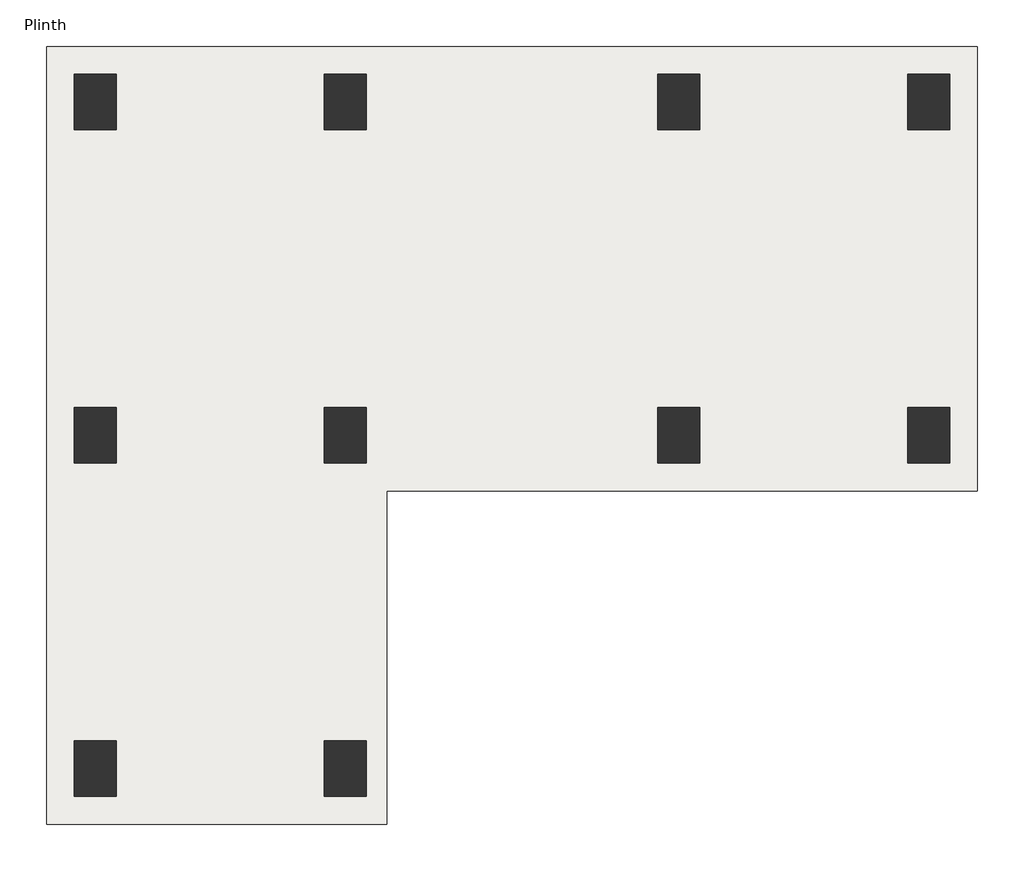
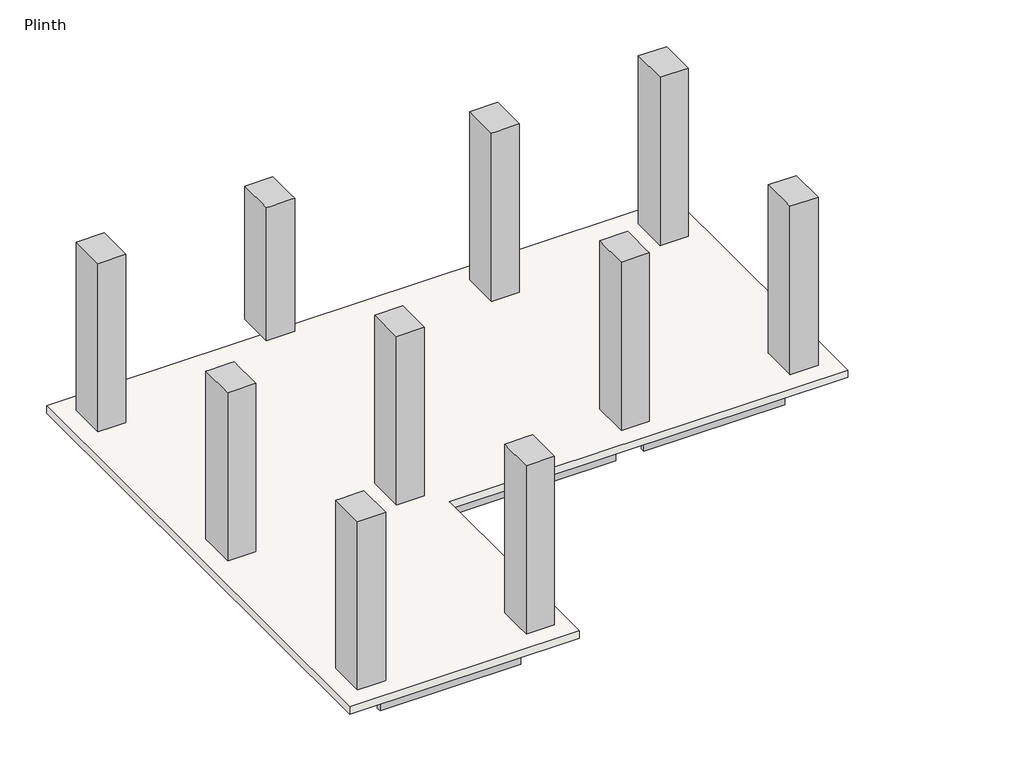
# One storey: 13 beams, 10 columns, 1 slab.
"""IFC4 building model written with IfcOpenShell, lengths in millimetres."""

import ifcopenshell
import ifcopenshell.guid

model = None  # the IFC model being written
_history = None  # IfcOwnerHistory: only IFC2X3 demands one
_inside = {}  # id of a spatial element -> (the spatial element, [elements in it])
_under = {}  # id of a project, library or spatial element -> (it, [spatial elements below it])
_declared = {}  # id of a project -> (the project, [libraries it declares])
_typed = {}  # id of a type object -> (the type object, [elements of that type])
_made_of = {}  # id of a material, layer set ... -> (it, [elements and type objects made of it])


def new_model(schema):
    """Start an empty IFC model of exactly this schema.

    Asked for "IFC4X3", IfcOpenShell would pick the latest addendum, in which some entities
    have other attributes; the version numbers below select the first issue.
    IFC2X3 requires an IfcOwnerHistory on every rooted entity: one is made here for all.
    """
    global model, _history
    if schema == "IFC4X3":
        model = ifcopenshell.file(schema_version=(4, 3, 0, 0))
    else:
        model = ifcopenshell.file(schema=schema)
    _inside.clear()
    _under.clear()
    _declared.clear()
    _typed.clear()
    _made_of.clear()
    _history = None
    if model.schema == "IFC2X3":
        org = make("IfcOrganization", Name="unknown")
        user = make(
            "IfcPersonAndOrganization",
            ThePerson=make("IfcPerson", FamilyName="unknown"),
            TheOrganization=org,
        )
        app = make(
            "IfcApplication",
            ApplicationDeveloper=org,
            Version="unknown",
            ApplicationFullName="unknown",
            ApplicationIdentifier="unknown",
        )
        _history = make(
            "IfcOwnerHistory",
            OwningUser=user,
            OwningApplication=app,
            ChangeAction="ADDED",
            CreationDate=0,
        )
    return model


def make(cls, **values):
    """One entity of the class cls with the attributes given. An attribute that is None is left unset."""
    return model.create_entity(
        cls, **{name: value for name, value in values.items() if value is not None}
    )


def rooted(cls, **values):
    """An entity with a GlobalId (a new one), such as an element, a storey or a relation."""
    return make(cls, GlobalId=ifcopenshell.guid.new(), OwnerHistory=_history, **values)


def si_unit(unit_type, name, prefix=None):
    """IfcSIUnit, for example si_unit("LENGTHUNIT", "METRE", prefix="MILLI")."""
    return make("IfcSIUnit", UnitType=unit_type, Prefix=prefix, Name=name)


def assignment(units):
    """IfcUnitAssignment: the units of a project."""
    return None if units is None else make("IfcUnitAssignment", Units=units)


def point(xyz):
    """IfcCartesianPoint."""
    return None if xyz is None else make("IfcCartesianPoint", Coordinates=xyz)


def direction(xyz):
    """IfcDirection."""
    return None if xyz is None else make("IfcDirection", DirectionRatios=xyz)


def frame(location, z_axis=None, x_axis=None):
    """IfcAxis2Placement3D, a coordinate frame: its origin and axes. An axis left out is left unset."""
    return make(
        "IfcAxis2Placement3D",
        Location=point(location),
        Axis=direction(z_axis),
        RefDirection=direction(x_axis),
    )


def origin():
    """The frame at (0, 0, 0) with its axes left unset."""
    return frame((0.0, 0.0, 0.0))


def place(relative_to, where):
    """IfcLocalPlacement: puts the frame where relative to a parent placement (None: the world)."""
    return make(
        "IfcLocalPlacement", PlacementRelTo=relative_to, RelativePlacement=where
    )


def context(
    kind, dimensions, precision=None, world=None, true_north=None, identifier=None
):
    """IfcGeometricRepresentationContext, for example the 3D "Model" context."""
    return make(
        "IfcGeometricRepresentationContext",
        ContextIdentifier=identifier,
        ContextType=kind,
        CoordinateSpaceDimension=dimensions,
        Precision=precision,
        WorldCoordinateSystem=world,
        TrueNorth=true_north,
    )


def project(units=None, contexts=None):
    """IfcProject with its units and contexts."""
    return rooted(
        "IfcProject",
        Name="project",
        RepresentationContexts=contexts,
        UnitsInContext=assignment(units),
    )


def spatial(cls, under=None, at=None, **own):
    """A site, building, storey or space (cls), placed at a placement, below another one or the project."""
    s = rooted(cls, ObjectPlacement=at, **own)
    if under is not None:
        _under.setdefault(under.id(), (under, []))[1].append(s)
    return s


def polyline(points):
    """IfcPolyline through the points."""
    return make("IfcPolyline", Points=[point(p) for p in points])


def outline(outer, holes=None, kind="AREA"):
    """IfcArbitraryClosedProfileDef: a profile drawn as a closed curve; with holes, ...WithVoids."""
    if holes is None:
        return make("IfcArbitraryClosedProfileDef", ProfileType=kind, OuterCurve=outer)
    return make(
        "IfcArbitraryProfileDefWithVoids",
        ProfileType=kind,
        OuterCurve=outer,
        InnerCurves=holes,
    )


def extrude(swept, where, along, depth):
    """IfcExtrudedAreaSolid: the profile swept, set in the frame where, extruded along a direction by depth."""
    return make(
        "IfcExtrudedAreaSolid",
        SweptArea=swept,
        Position=where,
        ExtrudedDirection=direction(along),
        Depth=depth,
    )


def faces_of(points, faces, orient=None, outer=None):
    """IfcFace entities. A face is a list of loops; a loop is a list of indices into points, from 0.

    orient and outer hold one flag for each loop. By default every Orientation is true, the
    first loop of a face is its IfcFaceOuterBound and the others are IfcFaceBound.
    """
    made = []
    for i, loops in enumerate(faces):
        bounds = []
        for j, loop in enumerate(loops):
            is_outer = j == 0 if outer is None else outer[i][j]
            bounds.append(
                make(
                    "IfcFaceOuterBound" if is_outer else "IfcFaceBound",
                    Bound=make("IfcPolyLoop", Polygon=[points[k] for k in loop]),
                    Orientation=True if orient is None else orient[i][j],
                )
            )
        made.append(make("IfcFace", Bounds=bounds))
    return made


def faceted_brep(points, faces, orient=None, outer=None, voids=None):
    """IfcFacetedBrep: a solid bounded by flat faces; with voids (closed shells), ...WithVoids."""
    shared = [point(p) for p in points]
    hull = make("IfcClosedShell", CfsFaces=faces_of(shared, faces, orient, outer))
    if voids is None:
        return make("IfcFacetedBrep", Outer=hull)
    return make(
        "IfcFacetedBrepWithVoids",
        Outer=hull,
        Voids=[
            make(cls, CfsFaces=faces_of(shared, fs, o, b)) for cls, fs, o, b in voids
        ],
    )


def shape(context_of_items, identifier, shape_type, items):
    """IfcShapeRepresentation: the items that make up one representation, for example the "Body"."""
    return make(
        "IfcShapeRepresentation",
        ContextOfItems=context_of_items,
        RepresentationIdentifier=identifier,
        RepresentationType=shape_type,
        Items=items,
    )


def made_of(thing, what):
    """Note that an element or type object is made of a material, layer set ...; save() writes the relation."""
    if what is not None:
        _made_of.setdefault(what.id(), (what, []))[1].append(thing)
    return thing


def element(
    cls,
    number,
    at=None,
    inside=None,
    cuts=None,
    type_object=None,
    material=None,
    context=None,
    identifier="Body",
    shape_type=None,
    held_by="IfcProductDefinitionShape",
    body=None,
    shapes=None,
    **own,
):
    """One element of the class cls, such as IfcWall. Its Tag is "e" and its number.

    at: its placement. inside: the storey or other place that contains it. cuts: it is an
    opening in that element (IfcRelVoidsElement). A single representation is given by context,
    identifier, shape_type and body (its items); several are given by shapes. held_by: the class
    of the entity that holds the representations. save() writes the other relations.
    """
    e = rooted(cls, Tag="e%d" % number, ObjectPlacement=at, **own)
    if body is not None:
        shapes = [shape(context, identifier, shape_type, body)]
    if shapes is not None:
        e.Representation = make(held_by, Representations=shapes)
    if inside is not None:
        _inside.setdefault(inside.id(), (inside, []))[1].append(e)
    if cuts is not None:
        rooted(
            "IfcRelVoidsElement", RelatingBuildingElement=cuts, RelatedOpeningElement=e
        )
    if type_object is not None:
        _typed.setdefault(type_object.id(), (type_object, []))[1].append(e)
    return made_of(e, material)


def aggregate(whole, parts):
    """IfcRelAggregates: a whole, such as a stair, and the parts it consists of."""
    return rooted("IfcRelAggregates", RelatingObject=whole, RelatedObjects=parts)


def save(model, path):
    """Write the relations noted so far, then the file.

    IfcRelAggregates (storeys below a building ...), IfcRelContainedInSpatialStructure (elements
    in a storey), IfcRelDefinesByType, IfcRelAssociatesMaterial and IfcRelDeclares: one each for
    every whole, place, type object, material and project.
    """
    for whole, parts in _under.values():
        aggregate(whole, parts)
    for where, things in _inside.values():
        rooted(
            "IfcRelContainedInSpatialStructure",
            RelatedElements=things,
            RelatingStructure=where,
        )
    for kind, things in _typed.values():
        rooted("IfcRelDefinesByType", RelatedObjects=things, RelatingType=kind)
    for what, things in _made_of.values():
        rooted("IfcRelAssociatesMaterial", RelatedObjects=things, RelatingMaterial=what)
    for by, libraries in _declared.values():
        rooted("IfcRelDeclares", RelatingContext=by, RelatedDefinitions=libraries)
    model.write(path)


model = new_model("IFC4")

# Units and contexts
model_context = context("Model", 3, world=origin())
ifc_project = project(units=[si_unit("LENGTHUNIT", "METRE", prefix="MILLI")], contexts=[model_context])

# Site, building, storey
site = spatial("IfcSite", under=ifc_project)
building = spatial("IfcBuilding", under=site)
storey = spatial("IfcBuildingStorey", under=building, Name="Plinth", Elevation=3048.0)

# Beams
placement = place(None, origin())
element("IfcBeam", 1, ObjectType="Concrete-Rectangular Beam : 12 x 24", at=placement, inside=storey, context=model_context, shape_type="SweptSolid", body=[
    extrude(outline(polyline([(-20798.018666, 15705.8753347), (-23084.018666, 15705.8753347), (-23084.018666, 15782.0753347), (-20798.018666, 15782.0753347), (-20798.018666, 15705.8753347)])), frame((0.0, 0.0, 2438.4), z_axis=(0.0, 0.0, 1.0), x_axis=(1.0, 0.0, 0.0)), (0.0, 0.0, 1.0), 482.6),
    extrude(outline(polyline([(-23084.018666, 16010.6753347), (-20798.018666, 16010.6753347), (-20798.018666, 15934.4753347), (-23084.018666, 15934.4753347), (-23084.018666, 16010.6753347)])), frame((0.0, 0.0, 2438.4), z_axis=(0.0, 0.0, 1.0), x_axis=(1.0, 0.0, 0.0)), (0.0, 0.0, 1.0), 482.6),
])
element("IfcBeam", 2, ObjectType="Concrete-Rectangular Beam : 12 x 24", at=placement, inside=storey, context=model_context, shape_type="SweptSolid", body=[
    extrude(outline(polyline([(-17140.418666, 15705.8753347), (-20340.818666, 15705.8753347), (-20340.818666, 15782.0753347), (-17140.418666, 15782.0753347), (-17140.418666, 15705.8753347)])), frame((0.0, 0.0, 2438.4), z_axis=(0.0, 0.0, 1.0), x_axis=(1.0, 0.0, 0.0)), (0.0, 0.0, 1.0), 482.6),
    extrude(outline(polyline([(-20340.818666, 16010.6753347), (-17140.418666, 16010.6753347), (-17140.418666, 15934.4753347), (-20340.818666, 15934.4753347), (-20340.818666, 16010.6753347)])), frame((0.0, 0.0, 2438.4), z_axis=(0.0, 0.0, 1.0), x_axis=(1.0, 0.0, 0.0)), (0.0, 0.0, 1.0), 482.6),
])
element("IfcBeam", 3, ObjectType="Concrete-Rectangular Beam : 12 x 24", at=placement, inside=storey, context=model_context, shape_type="SweptSolid", body=[
    extrude(outline(polyline([(-14397.218666, 15705.8753347), (-16683.218666, 15705.8753347), (-16683.218666, 15782.0753347), (-14397.218666, 15782.0753347), (-14397.218666, 15705.8753347)])), frame((0.0, 0.0, 2438.4), z_axis=(0.0, 0.0, 1.0), x_axis=(1.0, 0.0, 0.0)), (0.0, 0.0, 1.0), 482.6),
    extrude(outline(polyline([(-16683.218666, 16010.6753347), (-14397.218666, 16010.6753347), (-14397.218666, 15934.4753347), (-16683.218666, 15934.4753347), (-16683.218666, 16010.6753347)])), frame((0.0, 0.0, 2438.4), z_axis=(0.0, 0.0, 1.0), x_axis=(1.0, 0.0, 0.0)), (0.0, 0.0, 1.0), 482.6),
])
element("IfcBeam", 4, ObjectType="Concrete-Rectangular Beam : 12 x 24", at=placement, inside=storey, context=model_context, shape_type="SweptSolid", body=[
    extrude(outline(polyline([(-14321.018666, 12505.4753347), (-14321.018666, 15553.4753347), (-14244.818666, 15553.4753347), (-14244.818666, 12505.4753347), (-14321.018666, 12505.4753347)])), frame((0.0, 0.0, 2438.4), z_axis=(0.0, 0.0, 1.0), x_axis=(1.0, 0.0, 0.0)), (0.0, 0.0, 1.0), 482.6),
    extrude(outline(polyline([(-14016.218666, 15553.4753347), (-14016.218666, 12505.4753347), (-14092.418666, 12505.4753347), (-14092.418666, 15553.4753347), (-14016.218666, 15553.4753347)])), frame((0.0, 0.0, 2438.4), z_axis=(0.0, 0.0, 1.0), x_axis=(1.0, 0.0, 0.0)), (0.0, 0.0, 1.0), 482.6),
])
element("IfcBeam", 5, ObjectType="Concrete-Rectangular Beam : 12 x 24", at=placement, inside=storey, context=model_context, shape_type="SweptSolid", body=[
    extrude(outline(polyline([(-16683.218666, 12353.0753347), (-14397.218666, 12353.0753347), (-14397.218666, 12276.8753347), (-16683.218666, 12276.8753347), (-16683.218666, 12353.0753347)])), frame((0.0, 0.0, 2438.4), z_axis=(0.0, 0.0, 1.0), x_axis=(1.0, 0.0, 0.0)), (0.0, 0.0, 1.0), 482.6),
    extrude(outline(polyline([(-14397.218666, 12048.2753347), (-16683.218666, 12048.2753347), (-16683.218666, 12124.4753347), (-14397.218666, 12124.4753347), (-14397.218666, 12048.2753347)])), frame((0.0, 0.0, 2438.4), z_axis=(0.0, 0.0, 1.0), x_axis=(1.0, 0.0, 0.0)), (0.0, 0.0, 1.0), 482.6),
])
element("IfcBeam", 6, ObjectType="Concrete-Rectangular Beam : 12 x 24", at=placement, inside=storey, context=model_context, shape_type="SweptSolid", body=[
    extrude(outline(polyline([(-20340.818666, 12353.0753347), (-17140.418666, 12353.0753347), (-17140.418666, 12276.8753347), (-20340.818666, 12276.8753347), (-20340.818666, 12353.0753347)])), frame((0.0, 0.0, 2438.4), z_axis=(0.0, 0.0, 1.0), x_axis=(1.0, 0.0, 0.0)), (0.0, 0.0, 1.0), 482.6),
    extrude(outline(polyline([(-17140.418666, 12048.2753347), (-20340.818666, 12048.2753347), (-20340.818666, 12124.4753347), (-17140.418666, 12124.4753347), (-17140.418666, 12048.2753347)])), frame((0.0, 0.0, 2438.4), z_axis=(0.0, 0.0, 1.0), x_axis=(1.0, 0.0, 0.0)), (0.0, 0.0, 1.0), 482.6),
])
element("IfcBeam", 7, ObjectType="Concrete-Rectangular Beam : 12 x 24", at=placement, inside=storey, context=model_context, shape_type="SweptSolid", body=[
    extrude(outline(polyline([(-20721.818666, 8847.8753347), (-20721.818666, 11895.8753347), (-20645.618666, 11895.8753347), (-20645.618666, 8847.8753347), (-20721.818666, 8847.8753347)])), frame((0.0, 0.0, 2438.4), z_axis=(0.0, 0.0, 1.0), x_axis=(1.0, 0.0, 0.0)), (0.0, 0.0, 1.0), 482.6),
    extrude(outline(polyline([(-20417.018666, 11895.8753347), (-20417.018666, 8847.8753347), (-20493.218666, 8847.8753347), (-20493.218666, 11895.8753347), (-20417.018666, 11895.8753347)])), frame((0.0, 0.0, 2438.4), z_axis=(0.0, 0.0, 1.0), x_axis=(1.0, 0.0, 0.0)), (0.0, 0.0, 1.0), 482.6),
])
element("IfcBeam", 8, ObjectType="Concrete-Rectangular Beam : 12 x 24", at=placement, inside=storey, context=model_context, shape_type="SweptSolid", body=[
    extrude(outline(polyline([(-23084.018666, 8695.4753347), (-20798.018666, 8695.4753347), (-20798.018666, 8619.2753347), (-23084.018666, 8619.2753347), (-23084.018666, 8695.4753347)])), frame((0.0, 0.0, 2438.4), z_axis=(0.0, 0.0, 1.0), x_axis=(1.0, 0.0, 0.0)), (0.0, 0.0, 1.0), 482.6),
    extrude(outline(polyline([(-20798.018666, 8390.6753347), (-23084.018666, 8390.6753347), (-23084.018666, 8466.8753347), (-20798.018666, 8466.8753347), (-20798.018666, 8390.6753347)])), frame((0.0, 0.0, 2438.4), z_axis=(0.0, 0.0, 1.0), x_axis=(1.0, 0.0, 0.0)), (0.0, 0.0, 1.0), 482.6),
])
element("IfcBeam", 9, ObjectType="Concrete-Rectangular Beam : 12 x 24", at=placement, inside=storey, context=model_context, shape_type="SweptSolid", body=[
    extrude(outline(polyline([(-23160.218666, 11895.8753347), (-23160.218666, 8847.8753347), (-23236.418666, 8847.8753347), (-23236.418666, 11895.8753347), (-23160.218666, 11895.8753347)])), frame((0.0, 0.0, 2438.4), z_axis=(0.0, 0.0, 1.0), x_axis=(1.0, 0.0, 0.0)), (0.0, 0.0, 1.0), 482.6),
    extrude(outline(polyline([(-23465.018666, 8847.8753347), (-23465.018666, 11895.8753347), (-23388.818666, 11895.8753347), (-23388.818666, 8847.8753347), (-23465.018666, 8847.8753347)])), frame((0.0, 0.0, 2438.4), z_axis=(0.0, 0.0, 1.0), x_axis=(1.0, 0.0, 0.0)), (0.0, 0.0, 1.0), 482.6),
])
element("IfcBeam", 10, ObjectType="Concrete-Rectangular Beam : 12 x 24", at=placement, inside=storey, context=model_context, shape_type="SweptSolid", body=[
    extrude(outline(polyline([(-23160.218666, 15553.4753347), (-23160.218666, 12505.4753347), (-23236.418666, 12505.4753347), (-23236.418666, 15553.4753347), (-23160.218666, 15553.4753347)])), frame((0.0, 0.0, 2438.4), z_axis=(0.0, 0.0, 1.0), x_axis=(1.0, 0.0, 0.0)), (0.0, 0.0, 1.0), 482.6),
    extrude(outline(polyline([(-23465.018666, 12505.4753347), (-23465.018666, 15553.4753347), (-23388.818666, 15553.4753347), (-23388.818666, 12505.4753347), (-23465.018666, 12505.4753347)])), frame((0.0, 0.0, 2438.4), z_axis=(0.0, 0.0, 1.0), x_axis=(1.0, 0.0, 0.0)), (0.0, 0.0, 1.0), 482.6),
])
element("IfcBeam", 11, ObjectType="Concrete-Rectangular Beam : 12 x 24", at=placement, inside=storey, context=model_context, shape_type="SweptSolid", body=[
    extrude(outline(polyline([(-16759.418666, 12505.4753347), (-17064.218666, 12505.4753347), (-17064.218666, 15553.4753347), (-16759.418666, 15553.4753347), (-16759.418666, 12505.4753347)])), frame((0.0, 0.0, 2438.4), z_axis=(0.0, 0.0, 1.0), x_axis=(1.0, 0.0, 0.0)), (0.0, 0.0, 1.0), 482.6),
])
element("IfcBeam", 12, ObjectType="Concrete-Rectangular Beam : 12 x 24", at=placement, inside=storey, context=model_context, shape_type="SweptSolid", body=[
    extrude(outline(polyline([(-20721.818666, 15553.4753347), (-20417.018666, 15553.4753347), (-20417.018666, 12505.4753347), (-20721.818666, 12505.4753347), (-20721.818666, 15553.4753347)])), frame((0.0, 0.0, 2438.4), z_axis=(0.0, 0.0, 1.0), x_axis=(1.0, 0.0, 0.0)), (0.0, 0.0, 1.0), 482.6),
])
element("IfcBeam", 13, ObjectType="Concrete-Rectangular Beam : 12 x 24", at=placement, inside=storey, context=model_context, shape_type="SweptSolid", body=[
    extrude(outline(polyline([(-23084.018666, 12048.2753347), (-23084.018666, 12353.0753347), (-20798.018666, 12353.0753347), (-20798.018666, 12048.2753347), (-23084.018666, 12048.2753347)])), frame((0.0, 0.0, 2438.4), z_axis=(0.0, 0.0, 1.0), x_axis=(1.0, 0.0, 0.0)), (0.0, 0.0, 1.0), 482.6),
])

# Columns
element("IfcColumn", 14, ObjectType="Concrete-Rectangular-Column : 18 x 24", at=placement, inside=storey, context=model_context, shape_type="Brep", body=[
    faceted_brep([(-23084.018666, 16163.0753347, 3048.0), (-23084.018666, 15553.4753347, 3048.0), (-23541.218666, 15553.4753347, 3048.0), (-23541.218666, 16163.0753347, 3048.0), (-23084.018666, 16163.0753347, 5943.6), (-23084.018666, 16010.6753347, 5943.6), (-23084.018666, 15705.8753347, 5943.6), (-23084.018666, 15553.4753347, 5943.6), (-23160.218666, 15553.4753347, 5943.6), (-23465.018666, 15553.4753347, 5943.6), (-23541.218666, 15553.4753347, 5943.6), (-23541.218666, 16163.0753347, 5943.6)], [[[0, 1, 2, 3]], [[1, 0, 4, 5, 6, 7]], [[2, 1, 7, 8, 9, 10]], [[3, 2, 10, 11]], [[0, 3, 11, 4]], [[7, 6, 5, 4, 11, 10, 9, 8]]]),
])
element("IfcColumn", 15, ObjectType="Concrete-Rectangular-Column : 18 x 24", at=placement, inside=storey, context=model_context, shape_type="Brep", body=[
    faceted_brep([(-20340.818666, 16163.0753347, 3657.6), (-20340.818666, 15553.4753347, 3657.6), (-20798.018666, 15553.4753347, 3657.6), (-20798.018666, 16163.0753347, 3657.6), (-20340.818666, 16163.0753347, 5943.6), (-20340.818666, 16010.6753347, 5943.6), (-20340.818666, 15705.8753347, 5943.6), (-20340.818666, 15553.4753347, 5943.6), (-20417.018666, 15553.4753347, 5943.6), (-20721.818666, 15553.4753347, 5943.6), (-20798.018666, 15553.4753347, 5943.6), (-20798.018666, 15705.8753347, 5943.6), (-20798.018666, 16010.6753347, 5943.6), (-20798.018666, 16163.0753347, 5943.6)], [[[0, 1, 2, 3]], [[1, 0, 4, 5, 6, 7]], [[2, 1, 7, 8, 9, 10]], [[3, 2, 10, 11, 12, 13]], [[0, 3, 13, 4]], [[7, 6, 5, 4, 13, 12, 11, 10, 9, 8]]]),
])
element("IfcColumn", 16, ObjectType="Concrete-Rectangular-Column : 18 x 24", at=placement, inside=storey, context=model_context, shape_type="Brep", body=[
    faceted_brep([(-16683.218666, 16163.0753347, 3048.0), (-16683.218666, 15553.4753347, 3048.0), (-17140.418666, 15553.4753347, 3048.0), (-17140.418666, 16163.0753347, 3048.0), (-16683.218666, 16163.0753347, 5943.6), (-16683.218666, 16010.6753347, 5943.6), (-16683.218666, 15705.8753347, 5943.6), (-16683.218666, 15553.4753347, 5943.6), (-16759.418666, 15553.4753347, 5943.6), (-17064.218666, 15553.4753347, 5943.6), (-17140.418666, 15553.4753347, 5943.6), (-17140.418666, 15705.8753347, 5943.6), (-17140.418666, 16010.6753347, 5943.6), (-17140.418666, 16163.0753347, 5943.6)], [[[0, 1, 2, 3]], [[1, 0, 4, 5, 6, 7]], [[2, 1, 7, 8, 9, 10]], [[3, 2, 10, 11, 12, 13]], [[0, 3, 13, 4]], [[7, 6, 5, 4, 13, 12, 11, 10, 9, 8]]]),
])
element("IfcColumn", 17, ObjectType="Concrete-Rectangular-Column : 18 x 24", at=placement, inside=storey, context=model_context, shape_type="Brep", body=[
    faceted_brep([(-13940.018666, 16163.0753347, 3048.0), (-13940.018666, 15553.4753347, 3048.0), (-14397.218666, 15553.4753347, 3048.0), (-14397.218666, 16163.0753347, 3048.0), (-13940.018666, 16163.0753347, 5943.6), (-13940.018666, 15553.4753347, 5943.6), (-14016.218666, 15553.4753347, 5943.6), (-14321.018666, 15553.4753347, 5943.6), (-14397.218666, 15553.4753347, 5943.6), (-14397.218666, 15705.8753347, 5943.6), (-14397.218666, 16010.6753347, 5943.6), (-14397.218666, 16163.0753347, 5943.6)], [[[0, 1, 2, 3]], [[1, 0, 4, 5]], [[2, 1, 5, 6, 7, 8]], [[3, 2, 8, 9, 10, 11]], [[0, 3, 11, 4]], [[5, 4, 11, 10, 9, 8, 7, 6]]]),
])
element("IfcColumn", 18, ObjectType="Concrete-Rectangular-Column : 18 x 24", at=placement, inside=storey, context=model_context, shape_type="Brep", body=[
    faceted_brep([(-23084.018666, 12505.4753347, 3048.0), (-23084.018666, 11895.8753347, 3048.0), (-23541.218666, 11895.8753347, 3048.0), (-23541.218666, 12505.4753347, 3048.0), (-23084.018666, 12505.4753347, 5943.6), (-23084.018666, 12353.0753347, 5943.6), (-23084.018666, 12048.2753347, 5943.6), (-23084.018666, 11895.8753347, 5943.6), (-23160.218666, 11895.8753347, 5943.6), (-23465.018666, 11895.8753347, 5943.6), (-23541.218666, 11895.8753347, 5943.6), (-23541.218666, 12505.4753347, 5943.6), (-23465.018666, 12505.4753347, 5943.6), (-23160.218666, 12505.4753347, 5943.6)], [[[0, 1, 2, 3]], [[1, 0, 4, 5, 6, 7]], [[2, 1, 7, 8, 9, 10]], [[3, 2, 10, 11]], [[0, 3, 11, 12, 13, 4]], [[7, 6, 5, 4, 13, 12, 11, 10, 9, 8]]]),
])
element("IfcColumn", 19, ObjectType="Concrete-Rectangular-Column : 18 x 24", at=placement, inside=storey, context=model_context, shape_type="Brep", body=[
    faceted_brep([(-20340.818666, 12505.4753347, 3048.0), (-20340.818666, 11895.8753347, 3048.0), (-20798.018666, 11895.8753347, 3048.0), (-20798.018666, 12505.4753347, 3048.0), (-20340.818666, 12505.4753347, 5943.6), (-20340.818666, 12353.0753347, 5943.6), (-20340.818666, 12048.2753347, 5943.6), (-20340.818666, 11895.8753347, 5943.6), (-20417.018666, 11895.8753347, 5943.6), (-20721.818666, 11895.8753347, 5943.6), (-20798.018666, 11895.8753347, 5943.6), (-20798.018666, 12048.2753347, 5943.6), (-20798.018666, 12353.0753347, 5943.6), (-20798.018666, 12505.4753347, 5943.6), (-20721.818666, 12505.4753347, 5943.6), (-20417.018666, 12505.4753347, 5943.6)], [[[0, 1, 2, 3]], [[1, 0, 4, 5, 6, 7]], [[2, 1, 7, 8, 9, 10]], [[3, 2, 10, 11, 12, 13]], [[0, 3, 13, 14, 15, 4]], [[7, 6, 5, 4, 15, 14, 13, 12, 11, 10, 9, 8]]]),
])
element("IfcColumn", 20, ObjectType="Concrete-Rectangular-Column : 18 x 24", at=placement, inside=storey, context=model_context, shape_type="Brep", body=[
    faceted_brep([(-16683.218666, 12505.4753347, 3048.0), (-16683.218666, 11895.8753347, 3048.0), (-17140.418666, 11895.8753347, 3048.0), (-17140.418666, 12505.4753347, 3048.0), (-16683.218666, 12505.4753347, 5943.6), (-16683.218666, 12353.0753347, 5943.6), (-16683.218666, 12048.2753347, 5943.6), (-16683.218666, 11895.8753347, 5943.6), (-17140.418666, 11895.8753347, 5943.6), (-17140.418666, 12048.2753347, 5943.6), (-17140.418666, 12353.0753347, 5943.6), (-17140.418666, 12505.4753347, 5943.6), (-17064.218666, 12505.4753347, 5943.6), (-16759.418666, 12505.4753347, 5943.6)], [[[0, 1, 2, 3]], [[1, 0, 4, 5, 6, 7]], [[2, 1, 7, 8]], [[3, 2, 8, 9, 10, 11]], [[0, 3, 11, 12, 13, 4]], [[7, 6, 5, 4, 13, 12, 11, 10, 9, 8]]]),
])
element("IfcColumn", 21, ObjectType="Concrete-Rectangular-Column : 18 x 24", at=placement, inside=storey, context=model_context, shape_type="Brep", body=[
    faceted_brep([(-13940.018666, 12505.4753347, 3048.0), (-13940.018666, 11895.8753347, 3048.0), (-14397.218666, 11895.8753347, 3048.0), (-14397.218666, 12505.4753347, 3048.0), (-13940.018666, 12505.4753347, 5943.6), (-13940.018666, 11895.8753347, 5943.6), (-14397.218666, 11895.8753347, 5943.6), (-14397.218666, 12048.2753347, 5943.6), (-14397.218666, 12353.0753347, 5943.6), (-14397.218666, 12505.4753347, 5943.6), (-14321.018666, 12505.4753347, 5943.6), (-14016.218666, 12505.4753347, 5943.6)], [[[0, 1, 2, 3]], [[1, 0, 4, 5]], [[2, 1, 5, 6]], [[3, 2, 6, 7, 8, 9]], [[0, 3, 9, 10, 11, 4]], [[5, 4, 11, 10, 9, 8, 7, 6]]]),
])
element("IfcColumn", 22, ObjectType="Concrete-Rectangular-Column : 18 x 24", at=placement, inside=storey, context=model_context, shape_type="Brep", body=[
    faceted_brep([(-23084.018666, 8847.8753347, 3048.0), (-23084.018666, 8238.2753347, 3048.0), (-23541.218666, 8238.2753347, 3048.0), (-23541.218666, 8847.8753347, 3048.0), (-23084.018666, 8847.8753347, 5943.6), (-23084.018666, 8695.4753347, 5943.6), (-23084.018666, 8390.6753347, 5943.6), (-23084.018666, 8238.2753347, 5943.6), (-23541.218666, 8238.2753347, 5943.6), (-23541.218666, 8847.8753347, 5943.6), (-23465.018666, 8847.8753347, 5943.6), (-23160.218666, 8847.8753347, 5943.6)], [[[0, 1, 2, 3]], [[1, 0, 4, 5, 6, 7]], [[2, 1, 7, 8]], [[3, 2, 8, 9]], [[0, 3, 9, 10, 11, 4]], [[7, 6, 5, 4, 11, 10, 9, 8]]]),
])
element("IfcColumn", 23, ObjectType="Concrete-Rectangular-Column : 18 x 24", at=placement, inside=storey, context=model_context, shape_type="Brep", body=[
    faceted_brep([(-20340.818666, 8847.8753347, 3048.0), (-20340.818666, 8238.2753347, 3048.0), (-20798.018666, 8238.2753347, 3048.0), (-20798.018666, 8847.8753347, 3048.0), (-20340.818666, 8847.8753347, 5943.6), (-20340.818666, 8238.2753347, 5943.6), (-20798.018666, 8238.2753347, 5943.6), (-20798.018666, 8390.6753347, 5943.6), (-20798.018666, 8695.4753347, 5943.6), (-20798.018666, 8847.8753347, 5943.6), (-20721.818666, 8847.8753347, 5943.6), (-20417.018666, 8847.8753347, 5943.6)], [[[0, 1, 2, 3]], [[1, 0, 4, 5]], [[2, 1, 5, 6]], [[3, 2, 6, 7, 8, 9]], [[0, 3, 9, 10, 11, 4]], [[5, 4, 11, 10, 9, 8, 7, 6]]]),
])

# Slab
element("IfcSlab", 24, ObjectType="3\" LW Concrete on 2\" Metal Deck", at=placement, inside=storey, context=model_context, shape_type="SweptSolid", body=[
    extrude(outline(polyline([(-23846.018666, 7933.4753347), (-23846.018666, 16467.8753347), (-13635.218666, 16467.8753347), (-13635.218666, 11591.0753347), (-20112.218666, 11591.0753347), (-20112.218666, 7933.4753347), (-23846.018666, 7933.4753347)])), frame((0.0, 0.0, 2921.0), z_axis=(0.0, 0.0, 1.0), x_axis=(1.0, 0.0, 0.0)), (0.0, 0.0, 1.0), 127.0),
])

save(model, "model.ifc")
